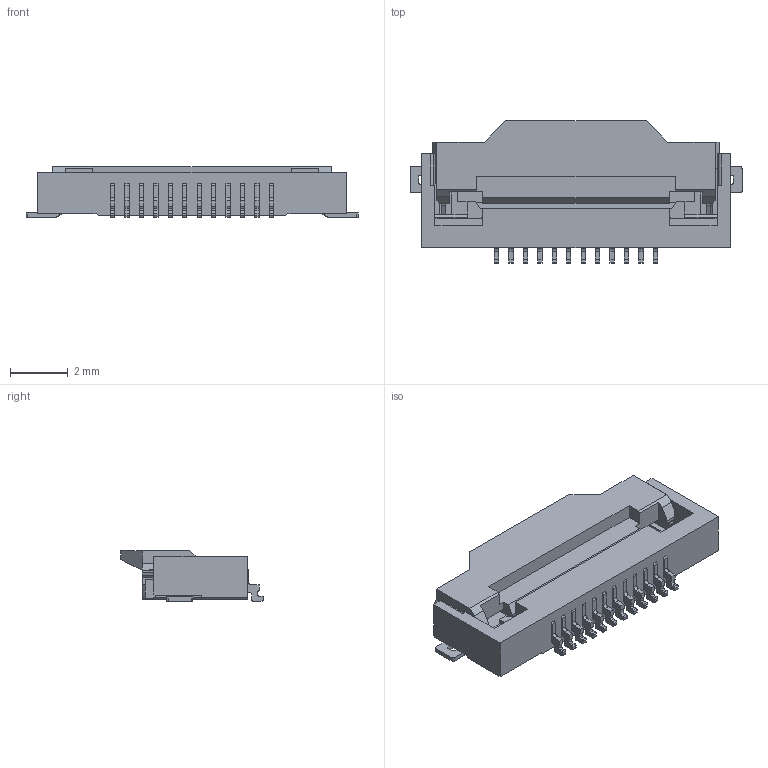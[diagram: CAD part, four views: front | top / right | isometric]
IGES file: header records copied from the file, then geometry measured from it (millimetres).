
Start section: SolidWorks IGES file using analytic representation for surfaces
Bounding box: 11.5 x 4.95 x 1.75 mm (x, y, z)
Surface area: 225.2 mm2 (no closed solid volume)
Topology: 0 solids, 0 shells, 447 faces, 3040 edges, 3036 vertices
Faces by surface type: bspline 312, revolution 135
